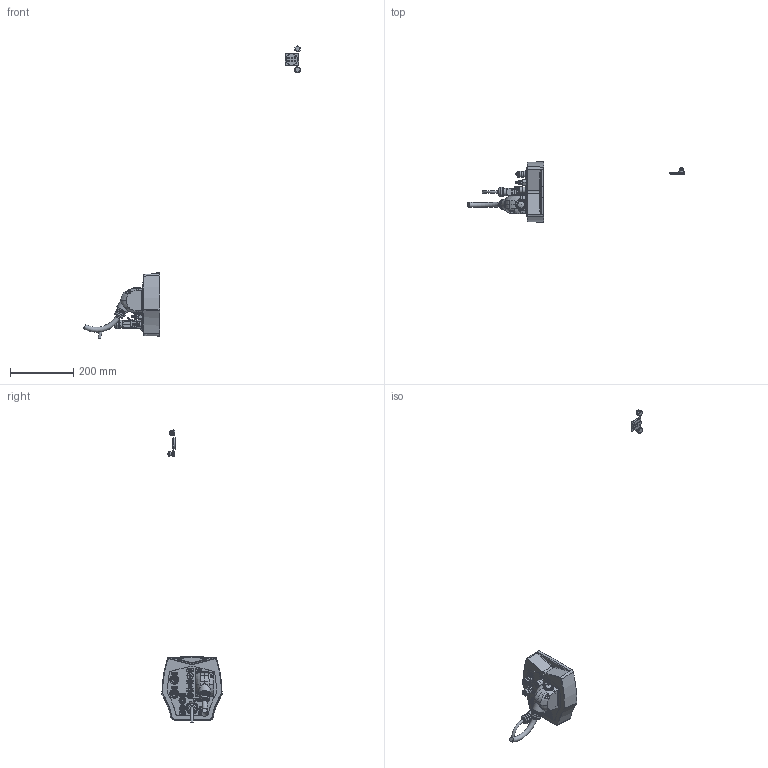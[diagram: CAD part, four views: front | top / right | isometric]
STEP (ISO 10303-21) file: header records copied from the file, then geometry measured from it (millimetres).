
FILE_DESCRIPTION(/* description */ (''),/* implementation_level */ '2;1');
FILE_NAME(/* name */ 'KR_6_R900-2_AIR_CTR_GIG_V01.stp',/* time_stamp */ '2018-02-12T11:17:38+01:00',/* author */ (''),/* organization */ (''),/* preprocessor_version */ 'ST-DEVELOPER v15',/* originating_system */ 'SIEMENS PLM Software NX 9.0',/* authorisation */ '');
FILE_SCHEMA (('AUTOMOTIVE_DESIGN { 1 0 10303 214 3 1 1 1 }'));
Products named in the file (1): grae193045AE0yyd
Bounding box: 684.41 x 189.98 x 921 mm (x, y, z)
Volume: 2091262 mm3; surface area: 219005.6 mm2
Topology: 34 solids, 40 shells, 2258 faces, 5807 edges, 3854 vertices
Faces by surface type: plane 1246, extrusion 500, cylinder 367, bspline 79, cone 42, torus 18, sphere 6
Full cylindrical faces by diameter (mm): 2 x2, 2.5 x1, 3 x6, 3.2 x2, 3.3 x1, 3.4 x4, 3.8 x1, 4 x2, 4.2 x12, 4.8 x3, 5 x7, 5.5 x2, 6 x6, 6.9 x4, 7 x3, 8 x11, 8.06 x1, 8.2 x2, 8.7 x2, 8.8 x1, 9 x1, 9.7 x3, 11 x6, 11.8 x1, 12 x2, 13 x1, 13.3 x1, 13.4 x2, 14 x3, 14.4 x1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
Entity records: 77949 total; most frequent: CARTESIAN_POINT 27416, ORIENTED_EDGE 11172, DIRECTION 8182, EDGE_CURVE 5586, VERTEX_POINT 3778, VECTOR 3160, LINE 2660, EDGE_LOOP 2660
